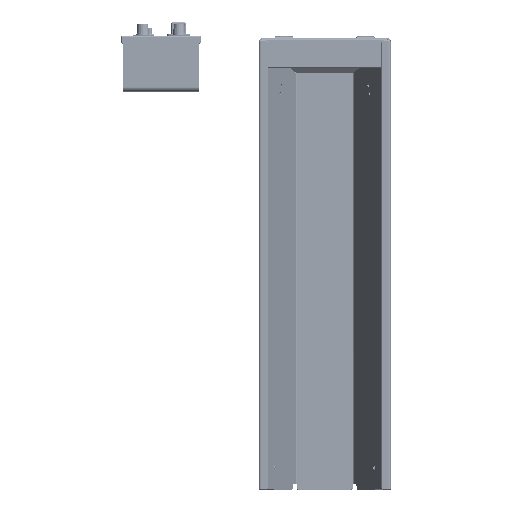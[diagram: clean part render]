
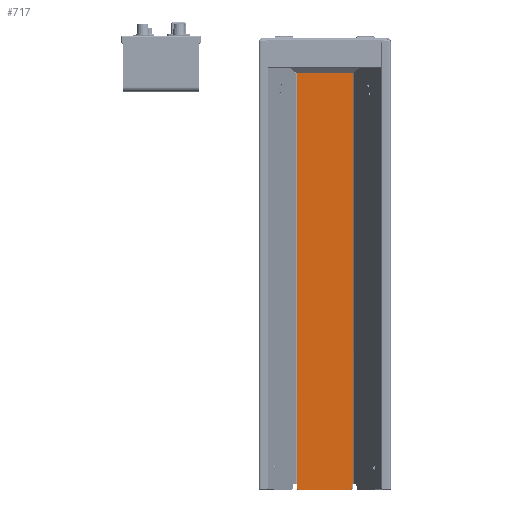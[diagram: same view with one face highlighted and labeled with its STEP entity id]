
A CAD part, top view. The second image highlights one B-rep face of the part: STEP entity #717.
In plain terms, the highlighted planar face has unit normal (0, 0, 1).
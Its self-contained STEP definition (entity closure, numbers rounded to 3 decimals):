
#717 = ADVANCED_FACE ( 'NONE', ( #2897 ), #47941, .T. ) ;
#2139 = VERTEX_POINT ( 'NONE', #148223 ) ;
#2897 = FACE_OUTER_BOUND ( 'NONE', #58419, .T. ) ;
#5654 = CIRCLE ( 'NONE', #58374, 2.3 ) ;
#5778 = B_SPLINE_CURVE_WITH_KNOTS ( 'NONE', 3,
 ( #86890, #120665, #131200, #27611 ),
 .UNSPECIFIED., .F., .F.,
 ( 4, 4 ),
 ( 0., 1. ),
 .UNSPECIFIED. ) ;
#12458 = ORIENTED_EDGE ( 'NONE', *, *, #16039, .T. ) ;
#12558 = VERTEX_POINT ( 'NONE', #33855 ) ;
#13060 = CARTESIAN_POINT ( 'NONE',  ( -47.058, -349.3, 0. ) ) ;
#13569 = VERTEX_POINT ( 'NONE', #68014 ) ;
#14656 = LINE ( 'NONE', #37899, #74379 ) ;
#16039 = EDGE_CURVE ( 'NONE', #16566, #75249, #5654, .T. ) ;
#16566 = VERTEX_POINT ( 'NONE', #58173 ) ;
#19703 = LINE ( 'NONE', #44470, #42230 ) ;
#20516 = VERTEX_POINT ( 'NONE', #80180 ) ;
#20586 = VECTOR ( 'NONE', #60508, 1000. ) ;
#22078 = CARTESIAN_POINT ( 'NONE',  ( 0., 349.3, 0. ) ) ;
#23719 = DIRECTION ( 'NONE',  ( -1., 0., 0. ) ) ;
#26691 = CARTESIAN_POINT ( 'NONE',  ( 47.019, 339.3, 0. ) ) ;
#26795 = EDGE_CURVE ( 'NONE', #142310, #12558, #105827, .T. ) ;
#27611 = CARTESIAN_POINT ( 'NONE',  ( 47.019, -349.291, 0. ) ) ;
#29472 = CARTESIAN_POINT ( 'NONE',  ( -47.045, -349.297, 0. ) ) ;
#30854 = LINE ( 'NONE', #121704, #48185 ) ;
#32091 = VECTOR ( 'NONE', #23719, 1000. ) ;
#33855 = CARTESIAN_POINT ( 'NONE',  ( 47.058, -349.3, 0. ) ) ;
#37513 = DIRECTION ( 'NONE',  ( 1., 0., 0. ) ) ;
#37603 = EDGE_CURVE ( 'NONE', #48723, #20516, #53812, .T. ) ;
#37899 = CARTESIAN_POINT ( 'NONE',  ( -46.319, 340., 0. ) ) ;
#38144 = ORIENTED_EDGE ( 'NONE', *, *, #121130, .F. ) ;
#39187 = DIRECTION ( 'NONE',  ( 0., 0., 1. ) ) ;
#39414 = VERTEX_POINT ( 'NONE', #112039 ) ;
#41764 = ORIENTED_EDGE ( 'NONE', *, *, #65489, .T. ) ;
#41879 = DIRECTION ( 'NONE',  ( 0., 0., 1. ) ) ;
#42230 = VECTOR ( 'NONE', #77498, 1000. ) ;
#42531 = CARTESIAN_POINT ( 'NONE',  ( 47.019, 350., 0. ) ) ;
#42728 = ORIENTED_EDGE ( 'NONE', *, *, #139818, .T. ) ;
#44470 = CARTESIAN_POINT ( 'NONE',  ( 46.319, 347., 0. ) ) ;
#44622 = LINE ( 'NONE', #22078, #125967 ) ;
#47397 = CARTESIAN_POINT ( 'NONE',  ( 46.319, 347., 0. ) ) ;
#47941 = PLANE ( 'NONE',  #126439 ) ;
#48185 = VECTOR ( 'NONE', #134455, 1000. ) ;
#48723 = VERTEX_POINT ( 'NONE', #52179 ) ;
#52179 = CARTESIAN_POINT ( 'NONE',  ( 47.019, 339.3, 0. ) ) ;
#53812 = LINE ( 'NONE', #42531, #123527 ) ;
#54450 = ORIENTED_EDGE ( 'NONE', *, *, #58475, .T. ) ;
#55354 = CIRCLE ( 'NONE', #84031, 2.3 ) ;
#56655 = ORIENTED_EDGE ( 'NONE', *, *, #140424, .T. ) ;
#58173 = CARTESIAN_POINT ( 'NONE',  ( -44.019, 349.3, 0. ) ) ;
#58374 = AXIS2_PLACEMENT_3D ( 'NONE', #98941, #41879, #65194 ) ;
#58419 = EDGE_LOOP ( 'NONE', ( #98094, #72279, #78820, #106446, #42728, #56655, #107298, #91818, #12458, #54450, #41764, #38144 ) ) ;
#58475 = EDGE_CURVE ( 'NONE', #75249, #39414, #14656, .T. ) ;
#59926 = DIRECTION ( 'NONE',  ( 1., 0., 0. ) ) ;
#60508 = DIRECTION ( 'NONE',  ( -1., 0., 0. ) ) ;
#62053 = CARTESIAN_POINT ( 'NONE',  ( 44.019, 349.3, 0. ) ) ;
#65194 = DIRECTION ( 'NONE',  ( 1., 0., 0. ) ) ;
#65489 = EDGE_CURVE ( 'NONE', #39414, #139629, #68808, .T. ) ;
#66665 = EDGE_CURVE ( 'NONE', #13569, #142310, #120035, .T. ) ;
#68014 = CARTESIAN_POINT ( 'NONE',  ( -47.019, -349.291, 0. ) ) ;
#68808 = LINE ( 'NONE', #148355, #32091 ) ;
#69433 = EDGE_CURVE ( 'NONE', #136385, #16566, #44622, .T. ) ;
#69569 = LINE ( 'NONE', #26691, #20586 ) ;
#72279 = ORIENTED_EDGE ( 'NONE', *, *, #26795, .T. ) ;
#74379 = VECTOR ( 'NONE', #74680, 1000. ) ;
#74680 = DIRECTION ( 'NONE',  ( 0., -1., 0. ) ) ;
#75093 = EDGE_CURVE ( 'NONE', #12558, #20516, #5778, .T. ) ;
#75249 = VERTEX_POINT ( 'NONE', #107003 ) ;
#75304 = CARTESIAN_POINT ( 'NONE',  ( -47.058, -349.3, 0. ) ) ;
#77498 = DIRECTION ( 'NONE',  ( 0., 1., 0. ) ) ;
#78820 = ORIENTED_EDGE ( 'NONE', *, *, #75093, .T. ) ;
#80180 = CARTESIAN_POINT ( 'NONE',  ( 47.019, -349.291, 0. ) ) ;
#84031 = AXIS2_PLACEMENT_3D ( 'NONE', #105277, #39187, #84980 ) ;
#84980 = DIRECTION ( 'NONE',  ( 1., 0., 0. ) ) ;
#85794 = CARTESIAN_POINT ( 'NONE',  ( -47.019, -349.291, 0. ) ) ;
#86890 = CARTESIAN_POINT ( 'NONE',  ( 47.058, -349.3, 0. ) ) ;
#88324 = DIRECTION ( 'NONE',  ( 0., -1., 0. ) ) ;
#90401 = DIRECTION ( 'NONE',  ( -1., 0., 0. ) ) ;
#91818 = ORIENTED_EDGE ( 'NONE', *, *, #69433, .T. ) ;
#96661 = CARTESIAN_POINT ( 'NONE',  ( -47.019, 339.3, 0. ) ) ;
#98094 = ORIENTED_EDGE ( 'NONE', *, *, #66665, .T. ) ;
#98626 = VECTOR ( 'NONE', #37513, 1000. ) ;
#98941 = CARTESIAN_POINT ( 'NONE',  ( -44.019, 347., 0. ) ) ;
#105277 = CARTESIAN_POINT ( 'NONE',  ( 44.019, 347., 0. ) ) ;
#105827 = LINE ( 'NONE', #140372, #98626 ) ;
#106446 = ORIENTED_EDGE ( 'NONE', *, *, #37603, .F. ) ;
#107003 = CARTESIAN_POINT ( 'NONE',  ( -46.319, 347., 0. ) ) ;
#107175 = DIRECTION ( 'NONE',  ( 0., 0., 1. ) ) ;
#107298 = ORIENTED_EDGE ( 'NONE', *, *, #107552, .T. ) ;
#107552 = EDGE_CURVE ( 'NONE', #115228, #136385, #55354, .T. ) ;
#112039 = CARTESIAN_POINT ( 'NONE',  ( -46.319, 339.3, 0. ) ) ;
#115228 = VERTEX_POINT ( 'NONE', #47397 ) ;
#120035 = B_SPLINE_CURVE_WITH_KNOTS ( 'NONE', 3,
 ( #85794, #120308, #29472, #75304 ),
 .UNSPECIFIED., .F., .F.,
 ( 4, 4 ),
 ( 0., 1. ),
 .UNSPECIFIED. ) ;
#120308 = CARTESIAN_POINT ( 'NONE',  ( -47.032, -349.294, 0. ) ) ;
#120665 = CARTESIAN_POINT ( 'NONE',  ( 47.045, -349.297, 0. ) ) ;
#121130 = EDGE_CURVE ( 'NONE', #13569, #139629, #30854, .T. ) ;
#121704 = CARTESIAN_POINT ( 'NONE',  ( -47.019, -350.482, 0. ) ) ;
#123527 = VECTOR ( 'NONE', #88324, 1000. ) ;
#125967 = VECTOR ( 'NONE', #90401, 1000. ) ;
#126439 = AXIS2_PLACEMENT_3D ( 'NONE', #126756, #107175, #59926 ) ;
#126756 = CARTESIAN_POINT ( 'NONE',  ( 0., 0., 0. ) ) ;
#131200 = CARTESIAN_POINT ( 'NONE',  ( 47.032, -349.294, 0. ) ) ;
#134455 = DIRECTION ( 'NONE',  ( 0., 1., 0. ) ) ;
#136385 = VERTEX_POINT ( 'NONE', #62053 ) ;
#139629 = VERTEX_POINT ( 'NONE', #96661 ) ;
#139818 = EDGE_CURVE ( 'NONE', #48723, #2139, #69569, .T. ) ;
#140372 = CARTESIAN_POINT ( 'NONE',  ( 0., -349.3, 0. ) ) ;
#140424 = EDGE_CURVE ( 'NONE', #2139, #115228, #19703, .T. ) ;
#142310 = VERTEX_POINT ( 'NONE', #13060 ) ;
#148223 = CARTESIAN_POINT ( 'NONE',  ( 46.319, 339.3, 0. ) ) ;
#148355 = CARTESIAN_POINT ( 'NONE',  ( -48.832, 339.3, 0. ) ) ;
